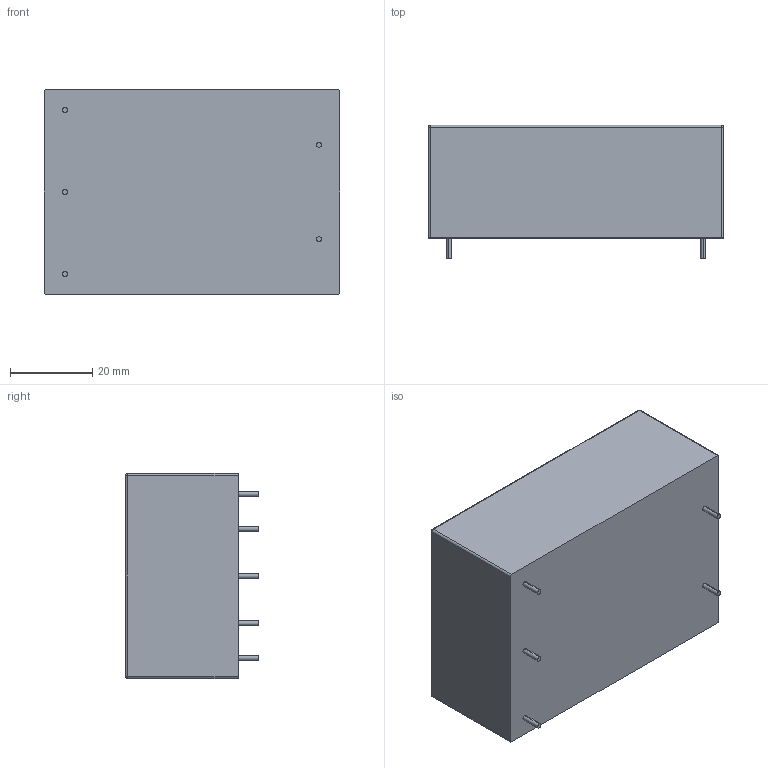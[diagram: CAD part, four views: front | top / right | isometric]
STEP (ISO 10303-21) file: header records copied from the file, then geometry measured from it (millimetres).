
FILE_DESCRIPTION (( 'STEP AP214' ), '1' );
FILE_NAME ('VTX-214-030-1xx.STEP', '2022-03-16T15:58:40', ( '' ), ( '' ), 'SwSTEP 2.0', 'SolidWorks 2022', '' );
FILE_SCHEMA (( 'AUTOMOTIVE_DESIGN' ));
Length unit declared in the file: millimetre
Products named in the file (1): VTX-214-030-1xx
Bounding box: 72 x 32.51 x 50 mm (x, y, z)
Volume: 99009.7 mm3; surface area: 13931.2 mm2
Topology: 1 solids, 1 shells, 526 faces, 1378 edges, 912 vertices
Faces by surface type: plane 326, bspline 178, cylinder 18, sphere 4
Entity records: 31047 total; most frequent: CARTESIAN_POINT 13743, ORIENTED_EDGE 2748, DIRECTION 1752, EDGE_CURVE 1374, LINE 982, VECTOR 982, VERTEX_POINT 912, EDGE_LOOP 588
